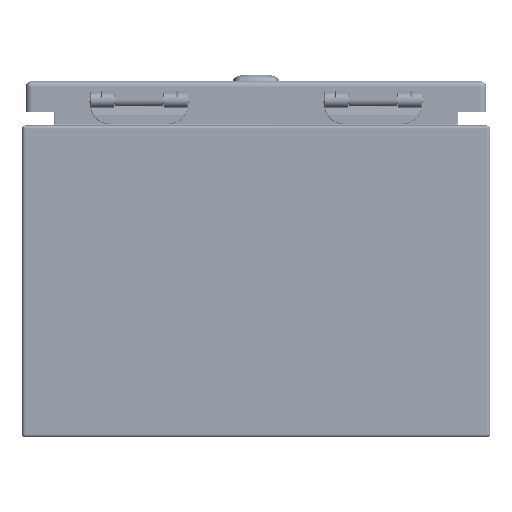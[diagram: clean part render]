
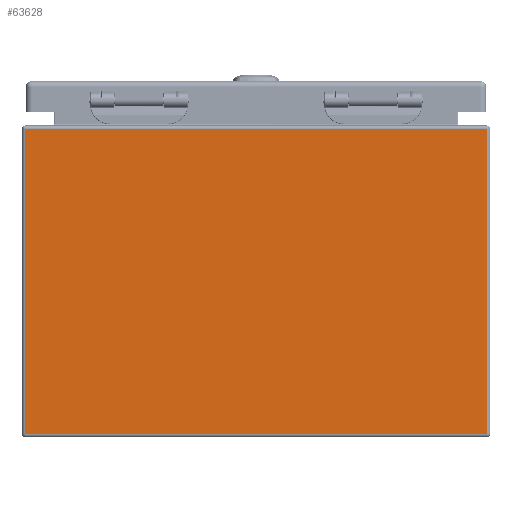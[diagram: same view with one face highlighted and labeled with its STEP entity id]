
A CAD part, left-side view. The second image highlights one B-rep face of the part: STEP entity #63628.
In plain terms, the highlighted planar face has unit normal (-1, 0, 0).
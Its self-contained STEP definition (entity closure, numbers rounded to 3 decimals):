
#6245=LINE('',#88820,#10182);
#6256=LINE('',#88861,#10193);
#6260=LINE('',#88876,#10197);
#6261=LINE('',#88877,#10198);
#10182=VECTOR('',#73977,0.394);
#10193=VECTOR('',#74026,0.394);
#10197=VECTOR('',#74044,0.394);
#10198=VECTOR('',#74045,0.394);
#15122=FACE_OUTER_BOUND('',#19036,.T.);
#19036=EDGE_LOOP('',(#42303,#42304,#42305,#42306));
#25459=VERTEX_POINT('',#88813);
#25460=VERTEX_POINT('',#88818);
#25471=VERTEX_POINT('',#88860);
#25475=VERTEX_POINT('',#88875);
#31964=EDGE_CURVE('',#25460,#25459,#6245,.T.);
#31984=EDGE_CURVE('',#25459,#25471,#6256,.T.);
#31992=EDGE_CURVE('',#25475,#25460,#6260,.T.);
#31993=EDGE_CURVE('',#25475,#25471,#6261,.T.);
#42303=ORIENTED_EDGE('',*,*,#31964,.F.);
#42304=ORIENTED_EDGE('',*,*,#31992,.F.);
#42305=ORIENTED_EDGE('',*,*,#31993,.T.);
#42306=ORIENTED_EDGE('',*,*,#31984,.F.);
#62264=PLANE('',#68431);
#63628=ADVANCED_FACE('',(#15122),#62264,.F.);
#68431=AXIS2_PLACEMENT_3D('',#88874,#74042,#74043);
#73977=DIRECTION('',(0.,-1.,0.));
#74026=DIRECTION('',(0.,0.,-1.));
#74042=DIRECTION('center_axis',(1.,0.,0.));
#74043=DIRECTION('ref_axis',(0.,0.,-1.));
#74044=DIRECTION('',(0.,0.,1.));
#74045=DIRECTION('',(0.,-1.,0.));
#88813=CARTESIAN_POINT('',(-12.,-5.916,7.916));
#88818=CARTESIAN_POINT('',(-12.,5.916,7.916));
#88820=CARTESIAN_POINT('',(-12.,-2.979,7.916));
#88860=CARTESIAN_POINT('',(-12.,-5.916,0.084));
#88861=CARTESIAN_POINT('',(-12.,-5.916,4.));
#88874=CARTESIAN_POINT('Origin',(-12.,0.,4.));
#88875=CARTESIAN_POINT('',(-12.,5.916,0.084));
#88876=CARTESIAN_POINT('',(-12.,5.916,4.));
#88877=CARTESIAN_POINT('',(-12.,3.,0.084));
